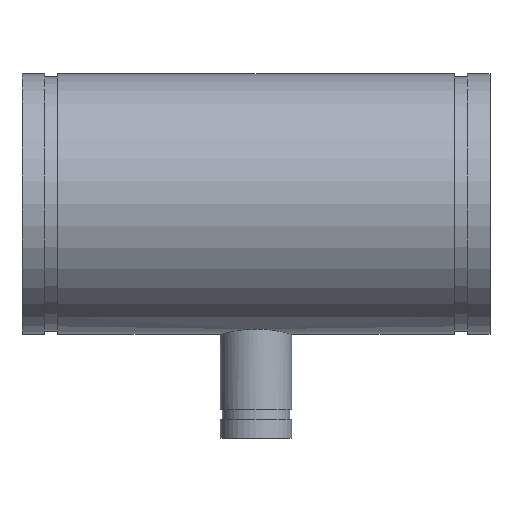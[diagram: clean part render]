
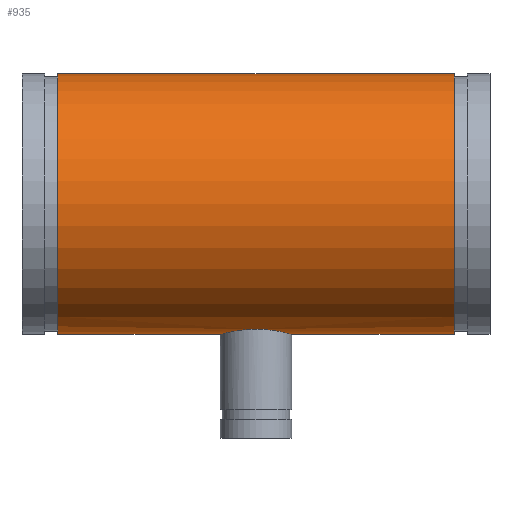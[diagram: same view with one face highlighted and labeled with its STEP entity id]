
A CAD part, top view. The second image highlights one B-rep face of the part: STEP entity #935.
In plain terms, the highlighted cylindrical face has radius 109.537 mm (diameter 219.075 mm), a full revolution.
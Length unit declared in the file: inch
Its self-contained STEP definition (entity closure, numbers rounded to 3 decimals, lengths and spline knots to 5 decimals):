
#61=FACE_BOUND('',#222,.T.);
#67=B_SPLINE_CURVE_WITH_KNOTS('',3,(#1807,#1808,#1809,#1810,#1811,#1812,
#1813,#1814,#1815,#1816,#1817,#1818,#1819,#1820,#1821,#1822,#1823,#1824),
 .UNSPECIFIED.,.F.,.F.,(4,2,2,2,2,2,2,2,4),(0.,0.57135,1.14269,
1.71404,2.28539,2.85661,3.42784,3.99907,
4.57029),.UNSPECIFIED.);
#68=B_SPLINE_CURVE_WITH_KNOTS('',3,(#1825,#1826,#1827,#1828,#1829,#1830,
#1831,#1832,#1833,#1834,#1835,#1836,#1837,#1838,#1839,#1840,#1841,#1842,
#1843,#1844,#1845,#1846,#1847,#1848,#1849,#1850,#1851,#1852,#1853,#1854,
#1855,#1856,#1857,#1858,#1859,#1860,#1861,#1862,#1863,#1864,#1865,#1866,
#1867,#1868,#1869,#1870,#1871,#1872,#1873,#1874),.UNSPECIFIED.,.F.,.F.,
(4,2,2,2,2,2,2,2,2,2,2,2,2,2,2,2,2,2,2,2,2,2,2,2,4),(4.57029,5.14152,
5.71275,6.28398,6.8552,7.42655,7.9979,
8.56924,9.14059,9.71194,10.28328,10.85463,
11.42598,11.9972,12.56843,13.13966,13.71088,
14.28211,14.85334,15.42457,15.99579,16.56714,
17.13849,17.70983,18.28118),.UNSPECIFIED.);
#81=CYLINDRICAL_SURFACE('',#1104,4.3125);
#103=LINE('',#1804,#125);
#125=VECTOR('',#1432,4.3125);
#171=FACE_OUTER_BOUND('',#221,.T.);
#221=EDGE_LOOP('',(#814,#815,#816,#817));
#222=EDGE_LOOP('',(#818,#819));
#326=CIRCLE('',#1087,4.3125);
#337=CIRCLE('',#1103,4.3125);
#424=VERTEX_POINT('',#1772);
#435=VERTEX_POINT('',#1801);
#436=VERTEX_POINT('',#1805);
#437=VERTEX_POINT('',#1806);
#552=EDGE_CURVE('',#424,#424,#326,.T.);
#565=EDGE_CURVE('',#435,#435,#337,.T.);
#566=EDGE_CURVE('',#435,#424,#103,.T.);
#567=EDGE_CURVE('',#436,#437,#67,.T.);
#568=EDGE_CURVE('',#437,#436,#68,.T.);
#814=ORIENTED_EDGE('',*,*,#565,.T.);
#815=ORIENTED_EDGE('',*,*,#566,.T.);
#816=ORIENTED_EDGE('',*,*,#552,.T.);
#817=ORIENTED_EDGE('',*,*,#566,.F.);
#818=ORIENTED_EDGE('',*,*,#567,.T.);
#819=ORIENTED_EDGE('',*,*,#568,.T.);
#935=ADVANCED_FACE('',(#171,#61),#81,.T.);
#1087=AXIS2_PLACEMENT_3D('',#1773,#1394,#1395);
#1103=AXIS2_PLACEMENT_3D('',#1802,#1428,#1429);
#1104=AXIS2_PLACEMENT_3D('',#1803,#1430,#1431);
#1394=DIRECTION('center_axis',(-1.,0.,0.));
#1395=DIRECTION('ref_axis',(0.,-1.,0.));
#1428=DIRECTION('center_axis',(1.,0.,0.));
#1429=DIRECTION('ref_axis',(0.,-1.,0.));
#1430=DIRECTION('center_axis',(-1.,0.,0.));
#1431=DIRECTION('ref_axis',(0.,-1.,0.));
#1432=DIRECTION('',(1.,0.,0.));
#1772=CARTESIAN_POINT('',(6.562,4.3125,0.));
#1773=CARTESIAN_POINT('Origin',(6.562,0.,0.));
#1801=CARTESIAN_POINT('',(-6.562,4.3125,0.));
#1802=CARTESIAN_POINT('Origin',(-6.562,0.,0.));
#1803=CARTESIAN_POINT('Origin',(7.75,0.,0.));
#1804=CARTESIAN_POINT('',(7.75,4.3125,0.));
#1805=CARTESIAN_POINT('',(0.,-4.14578,-1.1875));
#1806=CARTESIAN_POINT('',(-1.1875,-4.3125,0.));
#1807=CARTESIAN_POINT('Ctrl Pts',(0.,-4.14578,
-1.1875));
#1808=CARTESIAN_POINT('Ctrl Pts',(-0.07498,-4.14578,
-1.1875));
#1809=CARTESIAN_POINT('Ctrl Pts',(-0.15239,-4.14787,
-1.18028));
#1810=CARTESIAN_POINT('Ctrl Pts',(-0.30611,-4.15636,
-1.15004));
#1811=CARTESIAN_POINT('Ctrl Pts',(-0.38243,-4.16275,
-1.12702));
#1812=CARTESIAN_POINT('Ctrl Pts',(-0.52859,-4.17871,-1.06631));
#1813=CARTESIAN_POINT('Ctrl Pts',(-0.59856,-4.18828,-1.02857));
#1814=CARTESIAN_POINT('Ctrl Pts',(-0.72786,-4.20871,-0.94152));
#1815=CARTESIAN_POINT('Ctrl Pts',(-0.78719,-4.21954,
-0.89219));
#1816=CARTESIAN_POINT('Ctrl Pts',(-0.89218,-4.24038,
-0.7872));
#1817=CARTESIAN_POINT('Ctrl Pts',(-0.9415,-4.25113,
-0.72787));
#1818=CARTESIAN_POINT('Ctrl Pts',(-1.02856,-4.27126,-0.59857));
#1819=CARTESIAN_POINT('Ctrl Pts',(-1.0663,-4.28061,-0.5286));
#1820=CARTESIAN_POINT('Ctrl Pts',(-1.12702,-4.29614,-0.38242));
#1821=CARTESIAN_POINT('Ctrl Pts',(-1.15004,-4.30231,-0.30609));
#1822=CARTESIAN_POINT('Ctrl Pts',(-1.18029,-4.31049,-0.15237));
#1823=CARTESIAN_POINT('Ctrl Pts',(-1.1875,-4.3125,-0.07496));
#1824=CARTESIAN_POINT('Ctrl Pts',(-1.1875,-4.3125,0.));
#1825=CARTESIAN_POINT('Ctrl Pts',(-1.1875,-4.3125,0.));
#1826=CARTESIAN_POINT('Ctrl Pts',(-1.1875,-4.3125,0.07496));
#1827=CARTESIAN_POINT('Ctrl Pts',(-1.18029,-4.31049,0.15237));
#1828=CARTESIAN_POINT('Ctrl Pts',(-1.15004,-4.30231,0.30609));
#1829=CARTESIAN_POINT('Ctrl Pts',(-1.12702,-4.29614,0.38242));
#1830=CARTESIAN_POINT('Ctrl Pts',(-1.0663,-4.28061,0.5286));
#1831=CARTESIAN_POINT('Ctrl Pts',(-1.02856,-4.27126,0.59857));
#1832=CARTESIAN_POINT('Ctrl Pts',(-0.9415,-4.25113,
0.72787));
#1833=CARTESIAN_POINT('Ctrl Pts',(-0.89218,-4.24038,
0.7872));
#1834=CARTESIAN_POINT('Ctrl Pts',(-0.78719,-4.21954,
0.89219));
#1835=CARTESIAN_POINT('Ctrl Pts',(-0.72786,-4.20871,0.94152));
#1836=CARTESIAN_POINT('Ctrl Pts',(-0.59856,-4.18828,1.02857));
#1837=CARTESIAN_POINT('Ctrl Pts',(-0.52859,-4.17871,1.06631));
#1838=CARTESIAN_POINT('Ctrl Pts',(-0.38243,-4.16275,
1.12702));
#1839=CARTESIAN_POINT('Ctrl Pts',(-0.30611,-4.15636,
1.15004));
#1840=CARTESIAN_POINT('Ctrl Pts',(-0.15239,-4.14787,
1.18028));
#1841=CARTESIAN_POINT('Ctrl Pts',(-0.07498,-4.14578,
1.1875));
#1842=CARTESIAN_POINT('Ctrl Pts',(0.07498,-4.14578,
1.1875));
#1843=CARTESIAN_POINT('Ctrl Pts',(0.15239,-4.14787,1.18028));
#1844=CARTESIAN_POINT('Ctrl Pts',(0.30611,-4.15636,1.15004));
#1845=CARTESIAN_POINT('Ctrl Pts',(0.38243,-4.16275,1.12702));
#1846=CARTESIAN_POINT('Ctrl Pts',(0.52859,-4.17871,1.06631));
#1847=CARTESIAN_POINT('Ctrl Pts',(0.59856,-4.18828,1.02857));
#1848=CARTESIAN_POINT('Ctrl Pts',(0.72786,-4.20871,0.94152));
#1849=CARTESIAN_POINT('Ctrl Pts',(0.78719,-4.21954,0.89219));
#1850=CARTESIAN_POINT('Ctrl Pts',(0.89218,-4.24038,0.7872));
#1851=CARTESIAN_POINT('Ctrl Pts',(0.9415,-4.25113,0.72787));
#1852=CARTESIAN_POINT('Ctrl Pts',(1.02856,-4.27126,0.59857));
#1853=CARTESIAN_POINT('Ctrl Pts',(1.0663,-4.28061,0.5286));
#1854=CARTESIAN_POINT('Ctrl Pts',(1.12702,-4.29614,0.38242));
#1855=CARTESIAN_POINT('Ctrl Pts',(1.15004,-4.30231,0.30609));
#1856=CARTESIAN_POINT('Ctrl Pts',(1.18029,-4.31049,0.15237));
#1857=CARTESIAN_POINT('Ctrl Pts',(1.1875,-4.3125,0.07496));
#1858=CARTESIAN_POINT('Ctrl Pts',(1.1875,-4.3125,-0.07496));
#1859=CARTESIAN_POINT('Ctrl Pts',(1.18029,-4.31049,-0.15237));
#1860=CARTESIAN_POINT('Ctrl Pts',(1.15004,-4.30231,-0.30609));
#1861=CARTESIAN_POINT('Ctrl Pts',(1.12702,-4.29614,-0.38242));
#1862=CARTESIAN_POINT('Ctrl Pts',(1.0663,-4.28061,-0.5286));
#1863=CARTESIAN_POINT('Ctrl Pts',(1.02856,-4.27126,-0.59857));
#1864=CARTESIAN_POINT('Ctrl Pts',(0.9415,-4.25113,-0.72787));
#1865=CARTESIAN_POINT('Ctrl Pts',(0.89218,-4.24038,-0.7872));
#1866=CARTESIAN_POINT('Ctrl Pts',(0.78719,-4.21954,-0.89219));
#1867=CARTESIAN_POINT('Ctrl Pts',(0.72786,-4.20871,-0.94152));
#1868=CARTESIAN_POINT('Ctrl Pts',(0.59856,-4.18828,-1.02857));
#1869=CARTESIAN_POINT('Ctrl Pts',(0.52859,-4.17871,-1.06631));
#1870=CARTESIAN_POINT('Ctrl Pts',(0.38243,-4.16275,-1.12702));
#1871=CARTESIAN_POINT('Ctrl Pts',(0.30611,-4.15636,-1.15004));
#1872=CARTESIAN_POINT('Ctrl Pts',(0.15239,-4.14787,-1.18028));
#1873=CARTESIAN_POINT('Ctrl Pts',(0.07498,-4.14578,
-1.1875));
#1874=CARTESIAN_POINT('Ctrl Pts',(0.,-4.14578,-1.1875));
